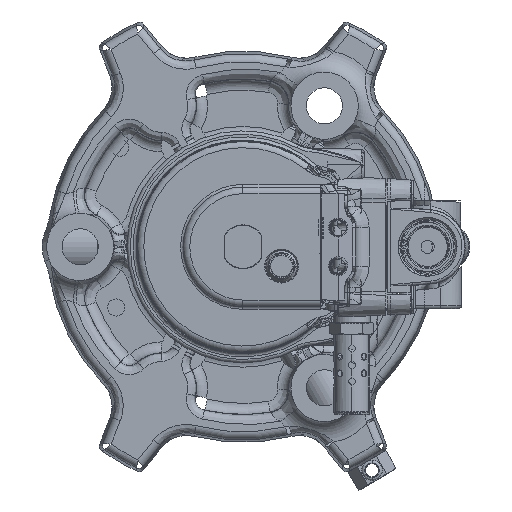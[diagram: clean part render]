
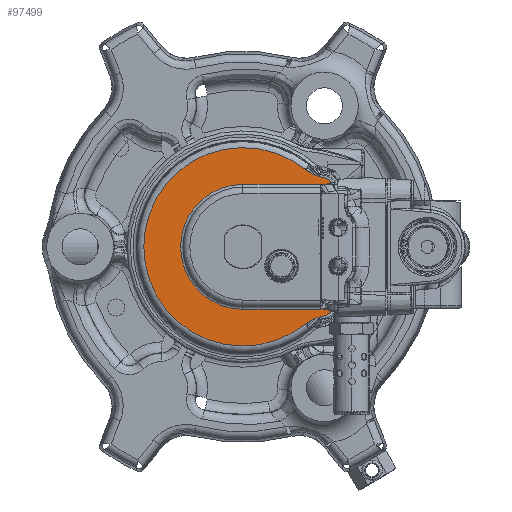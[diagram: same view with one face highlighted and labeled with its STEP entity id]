
A CAD part, left-side view. The second image highlights one B-rep face of the part: STEP entity #97499.
In plain terms, the highlighted planar face has unit normal (-1, 0, 0).
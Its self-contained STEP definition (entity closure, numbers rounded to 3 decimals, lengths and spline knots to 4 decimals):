
#90730=CARTESIAN_POINT('',(-6.165,-1.6016,1.1556));
#90731=CARTESIAN_POINT('',(-6.165,-1.5758,1.1515));
#90732=CARTESIAN_POINT('',(-6.165,-1.5263,1.1438));
#90733=CARTESIAN_POINT('',(-6.165,-1.459,1.1323));
#90734=CARTESIAN_POINT('',(-6.165,-1.4189,1.1241));
#90735=CARTESIAN_POINT('',(-6.165,-1.4,1.12));
#90737=DIRECTION('',(0.,0.,1.));
#90738=VECTOR('',#90737,0.0127);
#90739=CARTESIAN_POINT('',(-6.165,-1.4,1.12));
#90740=LINE('',#90739,#90738);
#90741=DIRECTION('',(0.,1.,0.));
#90742=VECTOR('',#90741,1.4);
#90743=CARTESIAN_POINT('',(-6.165,-1.4,1.1327));
#90744=LINE('',#90743,#90742);
#90745=CARTESIAN_POINT('',(-6.165,0.,0.));
#90746=DIRECTION('',(-1.,0.,0.));
#90747=DIRECTION('',(0.,0.,1.));
#90748=AXIS2_PLACEMENT_3D('',#90745,#90746,#90747);
#90750=DIRECTION('',(0.,-1.,0.));
#90751=VECTOR('',#90750,1.4);
#90752=CARTESIAN_POINT('',(-6.165,0.,-1.1327));
#90753=LINE('',#90752,#90751);
#90754=DIRECTION('',(0.,0.,1.));
#90755=VECTOR('',#90754,0.0127);
#90756=CARTESIAN_POINT('',(-6.165,-1.4,-1.1327));
#90757=LINE('',#90756,#90755);
#90758=CARTESIAN_POINT('',(-6.165,-1.4,-1.12));
#90759=CARTESIAN_POINT('',(-6.165,-1.4189,-1.1241));
#90760=CARTESIAN_POINT('',(-6.165,-1.459,-1.1323));
#90761=CARTESIAN_POINT('',(-6.165,-1.5263,-1.1438));
#90762=CARTESIAN_POINT('',(-6.165,-1.5758,-1.1515));
#90763=CARTESIAN_POINT('',(-6.165,-1.6016,-1.1556));
#90765=CARTESIAN_POINT('',(-6.165,0.,0.));
#90766=DIRECTION('',(1.,0.,0.));
#90767=DIRECTION('',(0.,-0.811,-0.585));
#90768=AXIS2_PLACEMENT_3D('',#90765,#90766,#90767);
#90770=CARTESIAN_POINT('',(-6.165,-1.5683,-1.2004));
#90771=CARTESIAN_POINT('',(-6.165,-1.5641,-1.2059));
#90772=CARTESIAN_POINT('',(-6.165,-1.5549,-1.2161));
#90773=CARTESIAN_POINT('',(-6.165,-1.5387,-1.229));
#90774=CARTESIAN_POINT('',(-6.165,-1.5206,-1.239));
#90775=CARTESIAN_POINT('',(-6.165,-1.5078,-1.2436));
#90776=CARTESIAN_POINT('',(-6.165,-1.5011,-1.2454));
#90778=DIRECTION('',(0.,0.966,-0.259));
#90779=VECTOR('',#90778,0.1442);
#90780=CARTESIAN_POINT('',(-6.165,-1.5011,-1.2454));
#90781=LINE('',#90780,#90779);
#90782=CARTESIAN_POINT('',(-6.165,-1.3619,-1.2827));
#90783=CARTESIAN_POINT('',(-6.165,-1.3338,
-1.2903));
#90784=CARTESIAN_POINT('',(-6.165,-1.2792,
-1.309));
#90785=CARTESIAN_POINT('',(-6.165,-1.201,
-1.3488));
#90786=CARTESIAN_POINT('',(-6.165,-1.1537,
-1.3819));
#90787=CARTESIAN_POINT('',(-6.165,-1.131,-1.4002));
#90789=CARTESIAN_POINT('',(-6.165,0.,0.));
#90790=DIRECTION('',(-1.,0.,0.));
#90791=DIRECTION('',(0.,-0.628,0.778));
#90792=AXIS2_PLACEMENT_3D('',#90789,#90790,#90791);
#90794=CARTESIAN_POINT('',(-6.165,-1.131,1.4002));
#90795=CARTESIAN_POINT('',(-6.165,-1.1537,
1.3819));
#90796=CARTESIAN_POINT('',(-6.165,-1.201,
1.3488));
#90797=CARTESIAN_POINT('',(-6.165,-1.2792,
1.309));
#90798=CARTESIAN_POINT('',(-6.165,-1.3338,
1.2903));
#90799=CARTESIAN_POINT('',(-6.165,-1.3619,1.2827));
#90801=DIRECTION('',(0.,-0.966,-0.259));
#90802=VECTOR('',#90801,0.1442);
#90803=CARTESIAN_POINT('',(-6.165,-1.3619,1.2827));
#90804=LINE('',#90803,#90802);
#90805=CARTESIAN_POINT('',(-6.165,-1.5011,1.2454));
#90806=CARTESIAN_POINT('',(-6.165,-1.5078,1.2436));
#90807=CARTESIAN_POINT('',(-6.165,-1.5206,1.239));
#90808=CARTESIAN_POINT('',(-6.165,-1.5387,1.229));
#90809=CARTESIAN_POINT('',(-6.165,-1.5549,1.2161));
#90810=CARTESIAN_POINT('',(-6.165,-1.5641,1.2059));
#90811=CARTESIAN_POINT('',(-6.165,-1.5683,1.2004));
#90813=CARTESIAN_POINT('',(-6.165,0.,0.));
#90814=DIRECTION('',(1.,0.,0.));
#90815=DIRECTION('',(0.,-0.794,0.608));
#90816=AXIS2_PLACEMENT_3D('',#90813,#90814,#90815);
#96114=CARTESIAN_POINT('',(-6.165,0.,-1.1327));
#96115=CARTESIAN_POINT('',(-6.165,-1.4,-1.1327));
#96116=VERTEX_POINT('',#96114);
#96117=VERTEX_POINT('',#96115);
#96122=CARTESIAN_POINT('',(-6.165,0.,1.1327));
#96123=VERTEX_POINT('',#96122);
#96128=CARTESIAN_POINT('',(-6.165,-1.4,1.1327));
#96129=VERTEX_POINT('',#96128);
#96237=VERTEX_POINT('',#90763);
#96238=VERTEX_POINT('',#90758);
#96243=CARTESIAN_POINT('',(-6.165,-1.5683,-1.2004));
#96244=VERTEX_POINT('',#96243);
#96249=VERTEX_POINT('',#90735);
#96250=VERTEX_POINT('',#90730);
#96254=CARTESIAN_POINT('',(-6.165,-1.5683,1.2004));
#96255=VERTEX_POINT('',#96254);
#96258=VERTEX_POINT('',#90805);
#96260=CARTESIAN_POINT('',(-6.165,-1.3619,1.2827));
#96261=VERTEX_POINT('',#96260);
#96264=VERTEX_POINT('',#90794);
#96265=CARTESIAN_POINT('',(-6.165,-1.131,-1.4002));
#96266=VERTEX_POINT('',#96265);
#96267=VERTEX_POINT('',#90782);
#96268=CARTESIAN_POINT('',(-6.165,-1.5011,-1.2454));
#96269=VERTEX_POINT('',#96268);
#97460=CARTESIAN_POINT('',(-6.165,0.,0.));
#97461=DIRECTION('',(-1.,0.,0.));
#97462=DIRECTION('',(0.,0.,-1.));
#97463=AXIS2_PLACEMENT_3D('',#97460,#97461,#97462);
#97464=PLANE('',#97463);
#97466=ORIENTED_EDGE('',*,*,#97465,.T.);
#97468=ORIENTED_EDGE('',*,*,#97467,.T.);
#97470=ORIENTED_EDGE('',*,*,#97469,.T.);
#97472=ORIENTED_EDGE('',*,*,#97471,.T.);
#97474=ORIENTED_EDGE('',*,*,#97473,.T.);
#97476=ORIENTED_EDGE('',*,*,#97475,.T.);
#97478=ORIENTED_EDGE('',*,*,#97477,.T.);
#97480=ORIENTED_EDGE('',*,*,#97479,.T.);
#97482=ORIENTED_EDGE('',*,*,#97481,.T.);
#97484=ORIENTED_EDGE('',*,*,#97483,.T.);
#97486=ORIENTED_EDGE('',*,*,#97485,.T.);
#97488=ORIENTED_EDGE('',*,*,#97487,.F.);
#97490=ORIENTED_EDGE('',*,*,#97489,.T.);
#97492=ORIENTED_EDGE('',*,*,#97491,.T.);
#97494=ORIENTED_EDGE('',*,*,#97493,.T.);
#97496=ORIENTED_EDGE('',*,*,#97495,.T.);
#97497=EDGE_LOOP('',(#97466,#97468,#97470,#97472,#97474,#97476,#97478,#97480,
#97482,#97484,#97486,#97488,#97490,#97492,#97494,#97496));
#97498=FACE_OUTER_BOUND('',#97497,.F.);
#97499=ADVANCED_FACE('',(#97498),#97464,.T.);
#90736=B_SPLINE_CURVE_WITH_KNOTS('',3,(#90730,#90731,#90732,#90733,#90734,
#90735),.UNSPECIFIED.,.F.,.F.,(4,1,1,4),(0.,0.3333,
0.6667,1.),.UNSPECIFIED.);
#90749=CIRCLE('',#90748,1.1327);
#90764=B_SPLINE_CURVE_WITH_KNOTS('',3,(#90758,#90759,#90760,#90761,#90762,
#90763),.UNSPECIFIED.,.F.,.F.,(4,1,1,4),(0.,0.3333,
0.6667,1.),.UNSPECIFIED.);
#90769=CIRCLE('',#90768,1.975);
#90777=B_SPLINE_CURVE_WITH_KNOTS('',3,(#90770,#90771,#90772,#90773,#90774,
#90775,#90776),.UNSPECIFIED.,.F.,.F.,(4,1,1,1,4),(0.,0.25,0.5,0.75,
1.),.UNSPECIFIED.);
#90788=B_SPLINE_CURVE_WITH_KNOTS('',3,(#90782,#90783,#90784,#90785,#90786,
#90787),.UNSPECIFIED.,.F.,.F.,(4,1,1,4),(0.,0.3333,
0.6667,1.),.UNSPECIFIED.);
#90793=CIRCLE('',#90792,1.7999);
#90800=B_SPLINE_CURVE_WITH_KNOTS('',3,(#90794,#90795,#90796,#90797,#90798,
#90799),.UNSPECIFIED.,.F.,.F.,(4,1,1,4),(0.,0.3333,
0.6667,1.),.UNSPECIFIED.);
#90812=B_SPLINE_CURVE_WITH_KNOTS('',3,(#90805,#90806,#90807,#90808,#90809,
#90810,#90811),.UNSPECIFIED.,.F.,.F.,(4,1,1,1,4),(0.,0.25,0.5,0.75,
1.),.UNSPECIFIED.);
#90817=CIRCLE('',#90816,1.975);
#97465=EDGE_CURVE('',#96250,#96249,#90736,.T.);
#97467=EDGE_CURVE('',#96249,#96129,#90740,.T.);
#97469=EDGE_CURVE('',#96129,#96123,#90744,.T.);
#97471=EDGE_CURVE('',#96123,#96116,#90749,.T.);
#97473=EDGE_CURVE('',#96116,#96117,#90753,.T.);
#97475=EDGE_CURVE('',#96117,#96238,#90757,.T.);
#97477=EDGE_CURVE('',#96238,#96237,#90764,.T.);
#97479=EDGE_CURVE('',#96237,#96244,#90769,.T.);
#97481=EDGE_CURVE('',#96244,#96269,#90777,.T.);
#97483=EDGE_CURVE('',#96269,#96267,#90781,.T.);
#97485=EDGE_CURVE('',#96267,#96266,#90788,.T.);
#97487=EDGE_CURVE('',#96264,#96266,#90793,.T.);
#97489=EDGE_CURVE('',#96264,#96261,#90800,.T.);
#97491=EDGE_CURVE('',#96261,#96258,#90804,.T.);
#97493=EDGE_CURVE('',#96258,#96255,#90812,.T.);
#97495=EDGE_CURVE('',#96255,#96250,#90817,.T.);
